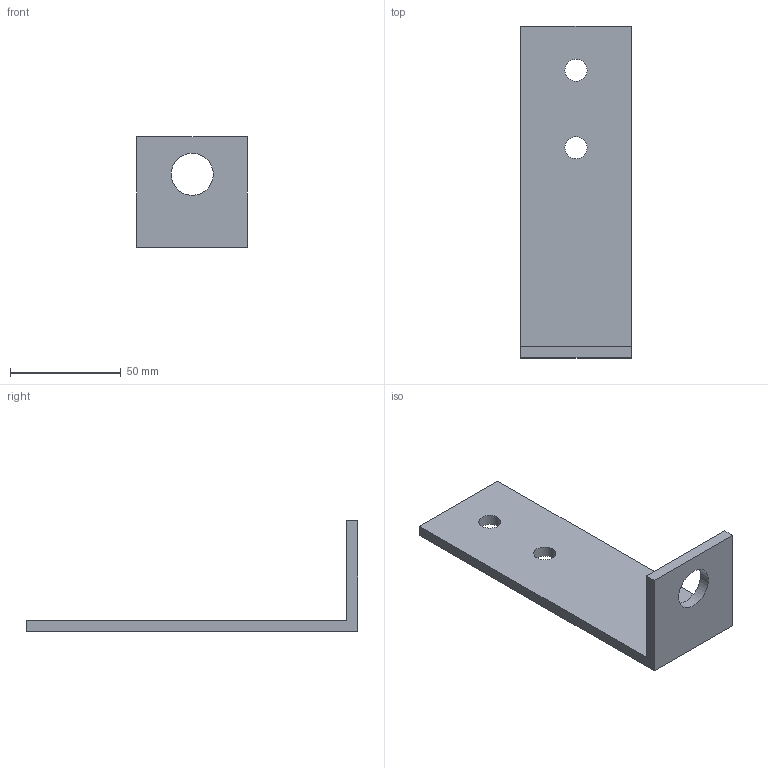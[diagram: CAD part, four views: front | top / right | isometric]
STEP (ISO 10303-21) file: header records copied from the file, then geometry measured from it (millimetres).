
FILE_DESCRIPTION(/* description */ (''),/* implementation_level */ '2;1');
FILE_NAME(/* name */ 'Pos143-Hoeklijn 150x50x5-Aluminium-1st',/* time_stamp */ '2024-08-06T11:49:44+02:00',/* author */ (''),/* organization */ (''),/* preprocessor_version */ 'ST-DEVELOPER v16.5',/* originating_system */ 'HiCAD 2024 2901.2 Build 361',/* authorisation */ '');
FILE_SCHEMA (('AUTOMOTIVE_DESIGN { 1 0 10303 214 1 1 1 1 }'));
Length unit declared in the file: millimetre
Products named in the file (1): Pos143-Hoeklijn 150x50x5-Aluminium-1st
Bounding box: 50 x 150 x 50 mm (x, y, z)
Volume: 46547 mm3; surface area: 21681.4 mm2
Topology: 1 solids, 1 shells, 11 faces, 27 edges, 18 vertices
Faces by surface type: plane 8, cylinder 3
Full cylindrical faces by diameter (mm): 10 x2, 19 x1
Entity records: 582 total; most frequent: CARTESIAN_POINT 53, DIRECTION 52, PRESENTATION_STYLE_ASSIGNMENT 49, COLOUR_RGB 49, DRAUGHTING_PRE_DEFINED_CURVE_FONT 48, CURVE_STYLE 48, OVER_RIDING_STYLED_ITEM 48, ORIENTED_EDGE 48
